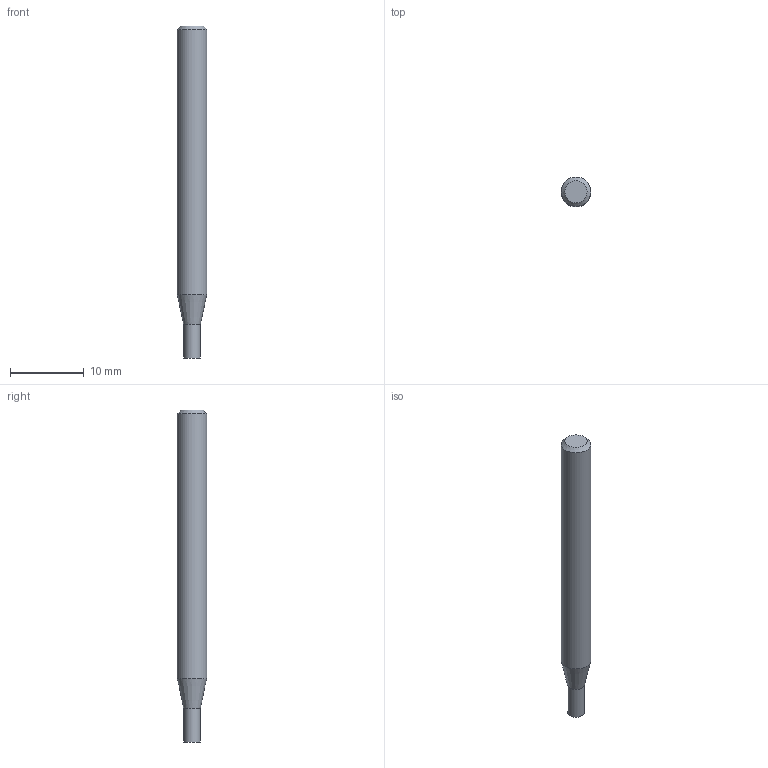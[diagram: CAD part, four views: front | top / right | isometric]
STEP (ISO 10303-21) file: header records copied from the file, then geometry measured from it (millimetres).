
FILE_DESCRIPTION((''),'2;1');
FILE_NAME('C:\Users\nsx150\AppData\Local\Temp\Mastercam 2021\E36A1X9CCL\TEMP.step','2023-04-21T15:12:30',(''),(''),'STEP Write','Mastercam 2021 ... CNC Software, Inc.','');
FILE_SCHEMA(('AUTOMOTIVE_DESIGN'));
Length unit declared in the file: millimetre
Products named in the file (1): None
Bounding box: 4 x 4 x 45 mm (x, y, z)
Volume: 507 mm3; surface area: 552.1 mm2
Topology: 2 solids, 2 shells, 8 faces, 10 edges, 6 vertices
Faces by surface type: plane 4, cylinder 2, cone 2
Full cylindrical faces by diameter (mm): 2.3 x1, 4 x1
Entity records: 190 total; most frequent: DIRECTION 32, CARTESIAN_POINT 22, AXIS2_PLACEMENT_3D 16, ORIENTED_EDGE 12, EDGE_LOOP 12, STYLED_ITEM 11, ADVANCED_FACE 8, VERTEX_POINT 6
